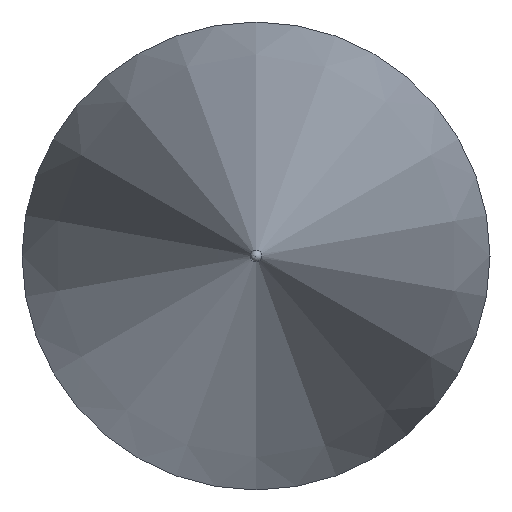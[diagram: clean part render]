
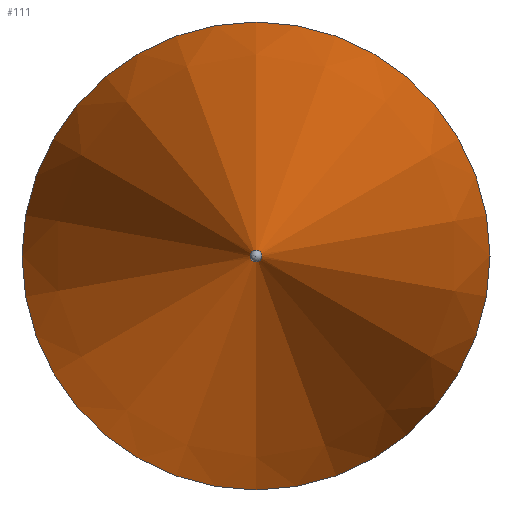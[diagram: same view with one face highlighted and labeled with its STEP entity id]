
A CAD part, left-side view. The second image highlights one B-rep face of the part: STEP entity #111.
In plain terms, the highlighted conical face has half-angle 12 degrees and reference radius 2 mm.
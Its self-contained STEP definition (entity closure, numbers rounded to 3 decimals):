
#95=CONICAL_SURFACE('',#160,2.,12.);
#101=FACE_BOUND('',#121,.T.);
#102=FACE_BOUND('',#122,.T.);
#111=ADVANCED_FACE('',(#101,#102),#95,.T.);
#121=EDGE_LOOP('',(#131));
#122=EDGE_LOOP('',(#132));
#131=ORIENTED_EDGE('',*,*,#144,.F.);
#132=ORIENTED_EDGE('',*,*,#145,.T.);
#139=VERTEX_POINT('',#196);
#140=VERTEX_POINT('',#199);
#144=EDGE_CURVE('',#139,#139,#149,.T.);
#145=EDGE_CURVE('',#140,#140,#150,.T.);
#149=CIRCLE('',#157,0.05);
#150=CIRCLE('',#159,2.);
#157=AXIS2_PLACEMENT_3D('',#195,#174,#175);
#159=AXIS2_PLACEMENT_3D('',#198,#178,#179);
#160=AXIS2_PLACEMENT_3D('',#200,#180,#181);
#174=DIRECTION('',(-1.,0.,0.));
#175=DIRECTION('',(0.,0.,1.));
#178=DIRECTION('',(-1.,0.,0.));
#179=DIRECTION('',(0.,0.,1.));
#180=DIRECTION('',(1.,0.,0.));
#181=DIRECTION('',(0.,0.,-1.));
#195=CARTESIAN_POINT('',(7887.962,6105.041,0.));
#196=CARTESIAN_POINT('',(7887.962,6105.041,0.05));
#198=CARTESIAN_POINT('',(7897.136,6105.041,0.));
#199=CARTESIAN_POINT('',(7897.136,6105.041,2.));
#200=CARTESIAN_POINT('',(7897.136,6105.041,0.));
